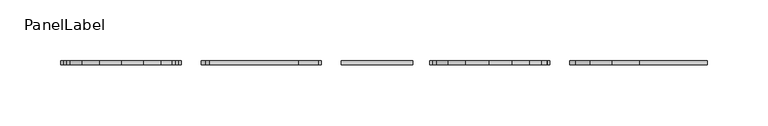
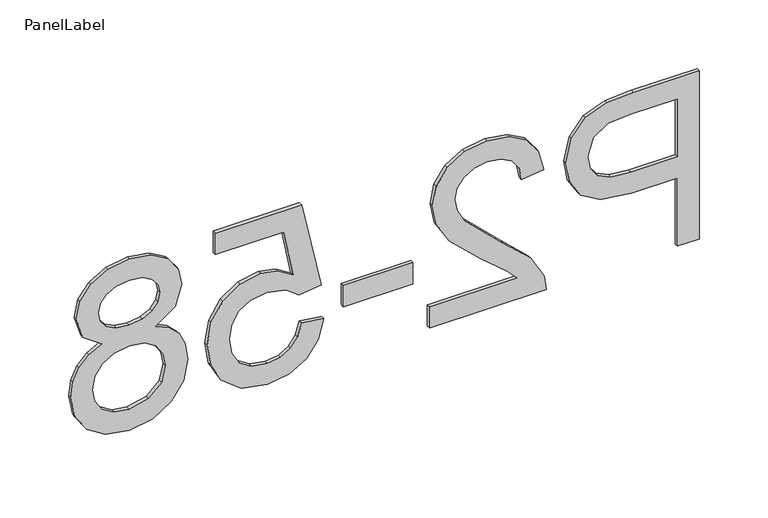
"""IFC4 building model written with IfcOpenShell, lengths in millimetres: fastener geometry, PanelLabel : Miranda."""

from ifc_helpers import new_model, si_unit, frame, origin, place, context, project, spatial, polyline, outline, extrude, source, transform, mapped, element, save


def panellabel_fa982ee3(model_context):
    return source(origin(), model_context, "Body", "SweptSolid", [
        extrude(outline(polyline([(1310.9113766, 260.2523077), (1460.9667612, 260.2523077), (1460.9667612, 204.6409615), (1459.5380112, 182.2205769), (1452.5224823, 163.9948558), (1438.0151747, 152.1801923), (1417.554742, 147.7107692), (1399.8693814, 150.7285457), (1385.1331073, 159.781875), (1375.1868093, 176.7116466), (1371.8713766, 203.35875), (1371.8713766, 241.4953846), (1310.9113766, 241.4953846), (1310.9113766, 260.2523077)]), holes=[polyline([(1390.6282997, 241.4953846), (1390.6282997, 202.2597115), (1392.3501266, 185.6275962), (1397.5156073, 174.6372115), (1405.8041891, 168.5100721), (1416.8953189, 166.4676923), (1432.4283958, 171.2851442), (1440.9276266, 183.9424038), (1442.2098381, 202.6993269), (1442.2098381, 241.4953846), (1390.6282997, 241.4953846)])]), frame((0.0, 60.325, 0.0), z_axis=(0.0, 1.0, 0.0), x_axis=(0.0, 0.0, 1.0)), (0.0, 0.0, 1.0), 3.175),
        extrude(outline(polyline([(1329.6682997, 32.8246154), (1310.9113766, 32.8246154), (1310.9113766, 131.2984615), (1323.8433958, 129.2835577), (1343.7543093, 117.8901923), (1365.4969535, 94.4074038), (1396.7462804, 62.0224038), (1407.5168573, 55.9502163), (1417.9943573, 53.9261538), (1427.3865569, 55.8357332), (1435.1943093, 61.5644712), (1440.4559559, 70.3705168), (1442.2098381, 81.5120192), (1440.4971698, 93.2121995), (1435.359165, 102.3021635), (1427.1988045, 108.1682813), (1416.4190689, 110.1969231), (1418.7636843, 128.9538462), (1436.9069775, 124.4065745), (1450.1595497, 114.5747596), (1458.2649583, 99.9712861), (1460.9667612, 81.1090385), (1457.9627227, 62.1094111), (1448.9506073, 47.5334135), (1435.4873862, 38.2602764), (1419.1300304, 35.1692308), (1401.3439247, 38.5029808), (1382.9533477, 49.5849519), (1357.254165, 76.4564423), (1339.211617, 98.0342308), (1329.6682997, 106.4968269), (1329.6682997, 32.8246154)])), frame((0.0, 60.325, 0.0), z_axis=(0.0, 1.0, 0.0), x_axis=(0.0, 0.0, 1.0)), (0.0, 0.0, 1.0), 3.175),
        extrude(outline(polyline([(-39.8584615, 63.5), (18.7569231, 63.5), (18.7569231, 60.325), (-39.8584615, 60.325), (-39.8584615, 63.5)])), frame((0.0, 0.0, 1355.4590689), z_axis=(0.0, 0.0, 1.0), x_axis=(1.0, 0.0, 0.0)), (0.0, 0.0, 1.0), 18.7569231),
        extrude(outline(polyline([(1350.7698381, -56.2707692), (1353.1144535, -75.0276923), (1341.8538886, -78.4713462), (1333.7896939, -84.4794231), (1328.9401867, -93.0244471), (1327.3236843, -104.0789423), (1329.5721338, -117.5238462), (1336.3174823, -127.5983654), (1346.7812444, -133.8903606), (1360.1849343, -135.9876923), (1372.8055593, -134.0231611), (1382.4587804, -128.1295673), (1388.5859198, -118.2611178), (1390.6282997, -104.3720192), (1387.3678189, -87.9047596), (1378.9052227, -77.3723077), (1381.2498381, -58.6153846), (1458.6221458, -75.0276923), (1458.6221458, -147.7107692), (1439.8652227, -147.7107692), (1439.8652227, -90.1944231), (1398.5413766, -82.1714423), (1406.6742612, -95.5705529), (1409.3852227, -109.6107692), (1406.0239968, -127.1358534), (1395.9403189, -141.684375), (1380.5720977, -151.4795553), (1361.357242, -154.7446154), (1342.6003189, -151.8046875), (1326.5543573, -142.9849038), (1313.0636602, -126.0963462), (1308.5667612, -104.0056731), (1311.4563165, -85.5830409), (1320.1249823, -70.9062981), (1333.5653069, -60.8455168), (1350.7698381, -56.2707692)])), frame((0.0, 60.325, 0.0), z_axis=(0.0, 1.0, 0.0), x_axis=(0.0, 0.0, 1.0)), (0.0, 0.0, 1.0), 3.175),
        extrude(outline(polyline([(1393.5590689, -198.4863462), (1405.2088766, -181.3962981), (1423.3430112, -175.8461538), (1438.006016, -178.8685096), (1450.122915, -187.9355769), (1458.2557997, -202.0307452), (1460.9667612, -220.1374038), (1458.1916891, -238.3539663), (1449.8664727, -252.6323077), (1437.557242, -261.8642308), (1422.8301266, -264.9415385), (1405.1539247, -259.4646635), (1393.5590689, -242.8508654), (1387.6105232, -254.3953486), (1378.8502708, -262.7984135), (1367.6996097, -267.9226803), (1354.5798381, -269.6307692), (1336.6471939, -266.2420673), (1321.828492, -256.0759615), (1311.8821939, -240.3780288), (1308.5667612, -220.3938462), (1311.8959319, -200.4096635), (1321.8834439, -184.7117308), (1336.8441049, -174.545625), (1355.0927227, -171.1569231), (1368.7207997, -172.9337019), (1379.930992, -178.2640385), (1388.3386362, -186.8731731), (1393.5590689, -198.4863462)]), holes=[polyline([(1422.793492, -194.6030769), (1414.6056554, -196.2653726), (1408.0663766, -201.2522596), (1403.7801266, -209.4171995), (1402.3513766, -220.6136538), (1403.7709679, -231.5490865), (1408.029742, -239.5903846), (1414.3492131, -244.5360577), (1421.9508958, -246.1846154), (1429.8410761, -244.4811058), (1436.366617, -239.3705769), (1440.7490328, -231.219375), (1442.2098381, -220.3938462), (1440.7810881, -209.4996274), (1436.4948381, -201.3621635), (1430.2120016, -196.2928486), (1422.793492, -194.6030769)]), polyline([(1355.7521458, -189.9138462), (1341.6295016, -193.0461058), (1331.060415, -204.1280769), (1327.3236843, -220.5403846), (1329.2882155, -233.3075481), (1335.1818093, -242.8875), (1344.1069174, -248.8772596), (1355.165992, -250.8738462), (1366.4128189, -248.813149), (1375.5348381, -242.6310577), (1381.5795497, -232.8312981), (1383.5944535, -219.9175962), (1381.6070256, -207.3290264), (1375.644742, -197.8452404), (1366.6967372, -191.8966947), (1355.7521458, -189.9138462)])]), frame((0.0, 60.325, 0.0), z_axis=(0.0, 1.0, 0.0), x_axis=(0.0, 0.0, 1.0)), (0.0, 0.0, 1.0), 3.175),
    ])


if __name__ == "__main__":
    model = new_model("IFC4")
    model_context = context("Model", 3, world=origin())
    ifc_project = project(units=[si_unit("LENGTHUNIT", "METRE", prefix="MILLI")], contexts=[model_context])
    site = spatial("IfcSite", under=ifc_project)
    building = spatial("IfcBuilding", under=site)
    placement = place(None, origin())
    panellabel_shape = panellabel_fa982ee3(model_context)
    element("IfcFastener", 1, ObjectType="PanelLabel : Miranda", at=placement, inside=building, context=model_context, shape_type="MappedRepresentation", body=[
        mapped(panellabel_shape, transform((0.0, 0.0, 0.0), x_axis=(1.0, 0.0, 0.0), y_axis=(0.0, 1.0, 0.0), z_axis=(0.0, 0.0, 1.0))),
    ])
    save(model, "model.ifc")
